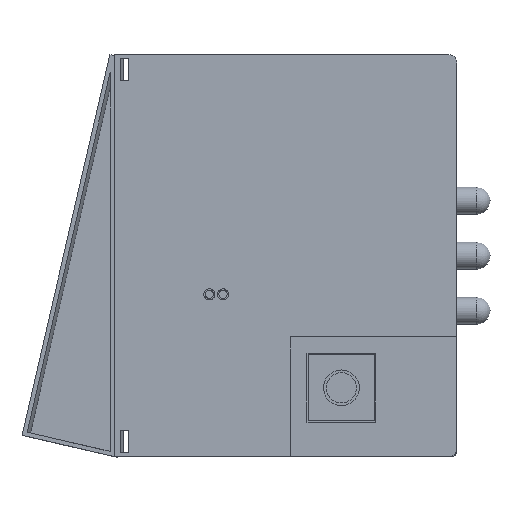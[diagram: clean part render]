
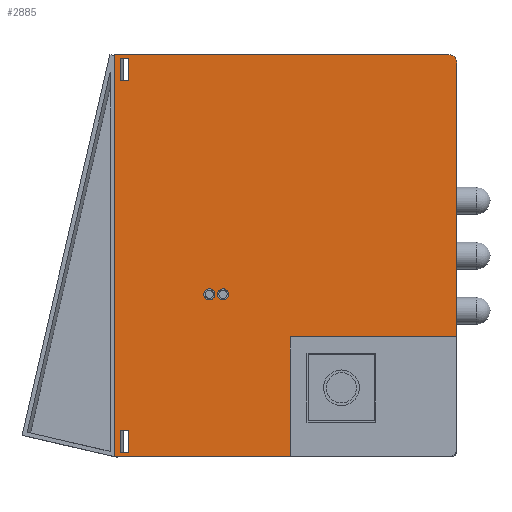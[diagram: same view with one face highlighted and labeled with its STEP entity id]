
A CAD part, front view. The second image highlights one B-rep face of the part: STEP entity #2885.
In plain terms, the highlighted planar face has unit normal (0, -1, 0).
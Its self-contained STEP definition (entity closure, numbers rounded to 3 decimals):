
#92=CIRCLE('',#3211,1.5);
#93=CIRCLE('',#3212,1.5);
#94=CIRCLE('',#3213,1.);
#95=CIRCLE('',#3214,1.);
#520=ORIENTED_EDGE('',*,*,#1158,.F.);
#521=ORIENTED_EDGE('',*,*,#1159,.T.);
#522=ORIENTED_EDGE('',*,*,#1160,.T.);
#523=ORIENTED_EDGE('',*,*,#1161,.F.);
#524=ORIENTED_EDGE('',*,*,#1162,.T.);
#525=ORIENTED_EDGE('',*,*,#1163,.T.);
#526=ORIENTED_EDGE('',*,*,#1164,.T.);
#527=ORIENTED_EDGE('',*,*,#1165,.F.);
#528=ORIENTED_EDGE('',*,*,#1166,.F.);
#529=ORIENTED_EDGE('',*,*,#1167,.T.);
#530=ORIENTED_EDGE('',*,*,#1168,.F.);
#531=ORIENTED_EDGE('',*,*,#1169,.T.);
#532=ORIENTED_EDGE('',*,*,#1170,.T.);
#533=ORIENTED_EDGE('',*,*,#1171,.F.);
#534=ORIENTED_EDGE('',*,*,#1172,.F.);
#535=ORIENTED_EDGE('',*,*,#1173,.F.);
#536=ORIENTED_EDGE('',*,*,#1174,.T.);
#537=ORIENTED_EDGE('',*,*,#1175,.T.);
#538=ORIENTED_EDGE('',*,*,#1176,.T.);
#539=ORIENTED_EDGE('',*,*,#1177,.T.);
#1158=EDGE_CURVE('',#1502,#1503,#1794,.T.);
#1159=EDGE_CURVE('',#1502,#1504,#1795,.T.);
#1160=EDGE_CURVE('',#1504,#1505,#1796,.T.);
#1161=EDGE_CURVE('',#1503,#1505,#1797,.T.);
#1162=EDGE_CURVE('',#1506,#1507,#1798,.T.);
#1163=EDGE_CURVE('',#1507,#1508,#92,.F.);
#1164=EDGE_CURVE('',#1508,#1509,#1799,.T.);
#1165=EDGE_CURVE('',#1510,#1509,#1800,.T.);
#1166=EDGE_CURVE('',#1511,#1510,#1801,.T.);
#1167=EDGE_CURVE('',#1511,#1506,#93,.F.);
#1168=EDGE_CURVE('',#1512,#1513,#1802,.T.);
#1169=EDGE_CURVE('',#1512,#1514,#1803,.T.);
#1170=EDGE_CURVE('',#1514,#1515,#1804,.T.);
#1171=EDGE_CURVE('',#1513,#1515,#1805,.T.);
#1172=EDGE_CURVE('',#1516,#1516,#94,.T.);
#1173=EDGE_CURVE('',#1517,#1517,#95,.T.);
#1174=EDGE_CURVE('',#1518,#1519,#1806,.T.);
#1175=EDGE_CURVE('',#1519,#1520,#1807,.T.);
#1176=EDGE_CURVE('',#1520,#1521,#1808,.T.);
#1177=EDGE_CURVE('',#1521,#1518,#1809,.T.);
#1502=VERTEX_POINT('',#4607);
#1503=VERTEX_POINT('',#4608);
#1504=VERTEX_POINT('',#4610);
#1505=VERTEX_POINT('',#4612);
#1506=VERTEX_POINT('',#4615);
#1507=VERTEX_POINT('',#4616);
#1508=VERTEX_POINT('',#4618);
#1509=VERTEX_POINT('',#4620);
#1510=VERTEX_POINT('',#4622);
#1511=VERTEX_POINT('',#4624);
#1512=VERTEX_POINT('',#4627);
#1513=VERTEX_POINT('',#4628);
#1514=VERTEX_POINT('',#4630);
#1515=VERTEX_POINT('',#4632);
#1516=VERTEX_POINT('',#4635);
#1517=VERTEX_POINT('',#4637);
#1518=VERTEX_POINT('',#4639);
#1519=VERTEX_POINT('',#4640);
#1520=VERTEX_POINT('',#4642);
#1521=VERTEX_POINT('',#4644);
#1794=LINE('',#4606,#2092);
#1795=LINE('',#4609,#2093);
#1796=LINE('',#4611,#2094);
#1797=LINE('',#4613,#2095);
#1798=LINE('',#4614,#2096);
#1799=LINE('',#4619,#2097);
#1800=LINE('',#4621,#2098);
#1801=LINE('',#4623,#2099);
#1802=LINE('',#4626,#2100);
#1803=LINE('',#4629,#2101);
#1804=LINE('',#4631,#2102);
#1805=LINE('',#4633,#2103);
#1806=LINE('',#4638,#2104);
#1807=LINE('',#4641,#2105);
#1808=LINE('',#4643,#2106);
#1809=LINE('',#4645,#2107);
#2092=VECTOR('',#3723,1000.);
#2093=VECTOR('',#3724,1000.);
#2094=VECTOR('',#3725,1000.);
#2095=VECTOR('',#3726,1000.);
#2096=VECTOR('',#3727,1000.);
#2097=VECTOR('',#3730,1000.);
#2098=VECTOR('',#3731,1000.);
#2099=VECTOR('',#3732,1000.);
#2100=VECTOR('',#3735,1000.);
#2101=VECTOR('',#3736,1000.);
#2102=VECTOR('',#3737,1000.);
#2103=VECTOR('',#3738,1000.);
#2104=VECTOR('',#3743,1000.);
#2105=VECTOR('',#3744,1000.);
#2106=VECTOR('',#3745,1000.);
#2107=VECTOR('',#3746,1000.);
#2322=EDGE_LOOP('',(#520,#521,#522,#523));
#2323=EDGE_LOOP('',(#524,#525,#526,#527,#528,#529));
#2324=EDGE_LOOP('',(#530,#531,#532,#533));
#2325=EDGE_LOOP('',(#534));
#2326=EDGE_LOOP('',(#535));
#2327=EDGE_LOOP('',(#536,#537,#538,#539));
#2544=FACE_BOUND('',#2322,.T.);
#2545=FACE_BOUND('',#2323,.T.);
#2546=FACE_BOUND('',#2324,.T.);
#2547=FACE_BOUND('',#2325,.T.);
#2548=FACE_BOUND('',#2326,.T.);
#2549=FACE_BOUND('',#2327,.T.);
#2745=PLANE('',#3210);
#2885=ADVANCED_FACE('',(#2544,#2545,#2546,#2547,#2548,#2549),#2745,.F.);
#3210=AXIS2_PLACEMENT_3D('',#4605,#3721,#3722);
#3211=AXIS2_PLACEMENT_3D('',#4617,#3728,#3729);
#3212=AXIS2_PLACEMENT_3D('',#4625,#3733,#3734);
#3213=AXIS2_PLACEMENT_3D('',#4634,#3739,#3740);
#3214=AXIS2_PLACEMENT_3D('',#4636,#3741,#3742);
#3721=DIRECTION('',(0.,1.,0.));
#3722=DIRECTION('',(0.,0.,1.));
#3723=DIRECTION('',(1.,0.,0.));
#3724=DIRECTION('',(0.,0.,1.));
#3725=DIRECTION('',(1.,0.,0.));
#3726=DIRECTION('',(0.,0.,1.));
#3727=DIRECTION('',(0.,0.,-1.));
#3728=DIRECTION('',(0.,1.,0.));
#3729=DIRECTION('',(0.,0.,1.));
#3730=DIRECTION('',(1.,0.,0.));
#3731=DIRECTION('',(0.,0.,-1.));
#3732=DIRECTION('',(1.,0.,0.));
#3733=DIRECTION('',(0.,1.,0.));
#3734=DIRECTION('',(0.,0.,1.));
#3735=DIRECTION('',(-1.,0.,0.));
#3736=DIRECTION('',(0.,0.,-1.));
#3737=DIRECTION('',(-1.,0.,0.));
#3738=DIRECTION('',(0.,0.,-1.));
#3739=DIRECTION('',(0.,-1.,0.));
#3740=DIRECTION('',(-1.,0.,0.));
#3741=DIRECTION('',(0.,-1.,0.));
#3742=DIRECTION('',(-1.,0.,0.));
#3743=DIRECTION('',(0.,0.,1.));
#3744=DIRECTION('',(1.,0.,0.));
#3745=DIRECTION('',(0.,0.,-1.));
#3746=DIRECTION('',(-1.,0.,0.));
#4605=CARTESIAN_POINT('',(-18.6,-4.5,36.5));
#4606=CARTESIAN_POINT('',(-17.944,-4.5,-35.75));
#4607=CARTESIAN_POINT('',(-17.944,-4.5,-35.75));
#4608=CARTESIAN_POINT('',(-16.394,-4.5,-35.75));
#4609=CARTESIAN_POINT('',(-17.944,-4.5,-35.75));
#4610=CARTESIAN_POINT('',(-17.944,-4.5,-31.75));
#4611=CARTESIAN_POINT('',(-17.944,-4.5,-31.75));
#4612=CARTESIAN_POINT('',(-16.394,-4.5,-31.75));
#4613=CARTESIAN_POINT('',(-16.394,-4.5,-35.75));
#4614=CARTESIAN_POINT('',(-77.6,-4.5,36.5));
#4615=CARTESIAN_POINT('',(-77.6,-4.5,35.));
#4616=CARTESIAN_POINT('',(-77.6,-4.5,-35.));
#4617=CARTESIAN_POINT('',(-76.1,-4.5,-35.));
#4618=CARTESIAN_POINT('',(-76.1,-4.5,-36.5));
#4619=CARTESIAN_POINT('',(-18.6,-4.5,-36.5));
#4620=CARTESIAN_POINT('',(-15.354,-4.5,-36.5));
#4621=CARTESIAN_POINT('',(-15.354,-4.5,36.5));
#4622=CARTESIAN_POINT('',(-15.354,-4.5,36.5));
#4623=CARTESIAN_POINT('',(-18.6,-4.5,36.5));
#4624=CARTESIAN_POINT('',(-76.1,-4.5,36.5));
#4625=CARTESIAN_POINT('',(-76.1,-4.5,35.));
#4626=CARTESIAN_POINT('',(-17.944,-4.5,35.75));
#4627=CARTESIAN_POINT('',(-16.394,-4.5,35.75));
#4628=CARTESIAN_POINT('',(-17.944,-4.5,35.75));
#4629=CARTESIAN_POINT('',(-16.394,-4.5,35.75));
#4630=CARTESIAN_POINT('',(-16.394,-4.5,31.75));
#4631=CARTESIAN_POINT('',(-17.944,-4.5,31.75));
#4632=CARTESIAN_POINT('',(-17.944,-4.5,31.75));
#4633=CARTESIAN_POINT('',(-17.944,-4.5,35.75));
#4634=CARTESIAN_POINT('',(-32.6,-4.5,7.));
#4635=CARTESIAN_POINT('',(-33.6,-4.5,7.));
#4636=CARTESIAN_POINT('',(-35.1,-4.5,7.));
#4637=CARTESIAN_POINT('',(-36.1,-4.5,7.));
#4638=CARTESIAN_POINT('',(-62.85,-4.5,17.75));
#4639=CARTESIAN_POINT('',(-62.85,-4.5,17.75));
#4640=CARTESIAN_POINT('',(-62.85,-4.5,30.25));
#4641=CARTESIAN_POINT('',(-62.85,-4.5,30.25));
#4642=CARTESIAN_POINT('',(-50.35,-4.5,30.25));
#4643=CARTESIAN_POINT('',(-50.35,-4.5,30.25));
#4644=CARTESIAN_POINT('',(-50.35,-4.5,17.75));
#4645=CARTESIAN_POINT('',(-50.35,-4.5,17.75));
